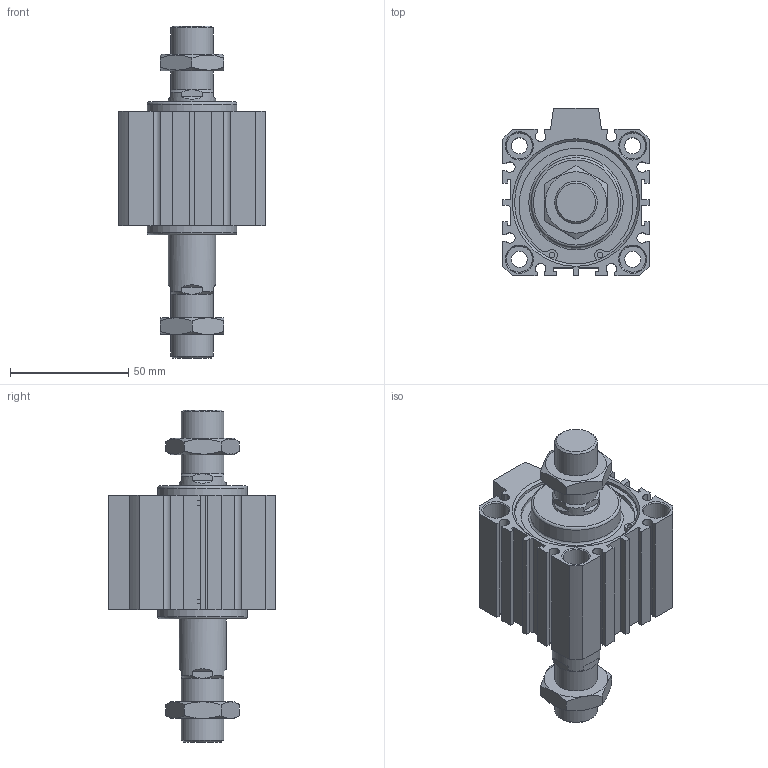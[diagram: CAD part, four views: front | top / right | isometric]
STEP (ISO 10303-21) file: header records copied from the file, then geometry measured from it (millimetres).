
FILE_DESCRIPTION((''),'2;1');
FILE_NAME('I:\3D電子目錄\氣缸\JDD\JDD-B\JDD50-B\JDD50x20-B.stp','2007-02-09T17:07:45',('662F206'),(''),'Autodesk Inventor 10','Autodesk Inventor 10','');
FILE_SCHEMA(('AUTOMOTIVE_DESIGN { 1 0 10303 214 1 1 1 1 }'));
Length unit declared in the file: millimetre
Products named in the file (3): JDD50-B; R 形環 52
Assembly tree (3 placements, depth 2):
  JDD50-B
    JDD50-B
    R 形環 52  x2
Bounding box: 62 x 71 x 140.6 mm (x, y, z)
Volume: 195042.7 mm3; surface area: 46308.1 mm2
Topology: 3 solids, 3 shells, 231 faces, 561 edges, 362 vertices
Faces by surface type: plane 133, cylinder 56, cone 38, bspline 2, torus 2
Full cylindrical faces by diameter (mm): 2.3 x4, 2.7 x2, 6.8 x4, 11 x8, 18 x4, 20 x2, 38 x2, 52 x4, 55 x2
Entity records: 6180 total; most frequent: CARTESIAN_POINT 1222, DIRECTION 1017, ORIENTED_EDGE 942, EDGE_CURVE 471, AXIS2_PLACEMENT_3D 375, VERTEX_POINT 334, EDGE_LOOP 309, VECTOR 267
